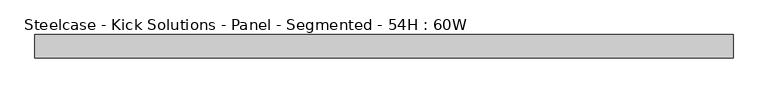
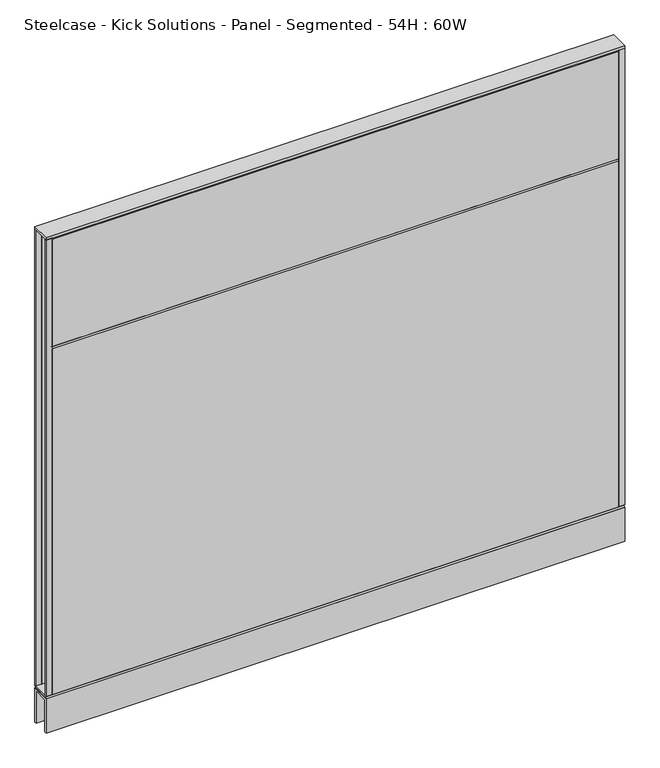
"""IFC4 building model written with IfcOpenShell, lengths in millimetres: furniture geometry, Steelcase - Kick Solutions - Panel - Segmented - 54H : 60W."""

from ifc_helpers import new_model, si_unit, frame, origin, place, context, project, spatial, polyline, outline, extrude, source, transform, mapped, element, save


def steelcase_kick_solutions_panel_segmented_54h_60w_f9cf9e86(model_context):
    return source(origin(), model_context, "Body", "SweptSolid", [
        extrude(outline(polyline([(1.5e-06, 101.600003), (-3.175, 101.600003), (-3.175, 1371.6), (1.5e-06, 1368.5188448), (1.5e-06, 101.600003)])), frame((15.8749996, 0.0, 0.0), z_axis=(1.0, 0.0, 0.0), x_axis=(0.0, 1.0, 0.0)), (0.0, 0.0, 1.0), 1492.2500008),
        extrude(outline(polyline([(-50.8000015, 1069.8811552), (-50.8000015, 1368.5188448), (-47.625, 1371.6), (-47.625, 1066.8), (-50.8000015, 1069.8811552)])), frame((15.8749996, 0.0, 0.0), z_axis=(1.0, 0.0, 0.0), x_axis=(0.0, 1.0, 0.0)), (0.0, 0.0, 1.0), 1492.2500008),
        extrude(outline(polyline([(-50.8000015, 101.600003), (-50.8000015, 1063.7188448), (-47.625, 1066.8), (-47.625, 101.600003), (-50.8000015, 101.600003)])), frame((15.8749996, 0.0, 0.0), z_axis=(1.0, 0.0, 0.0), x_axis=(0.0, 1.0, 0.0)), (0.0, 0.0, 1.0), 1492.2500008),
        extrude(outline(polyline([(1524.0, -3.1750015), (1508.1250004, -3.1750015), (1508.1250004, 0.0), (1524.0, 0.0), (1524.0, -3.1750015)])), frame((0.0, 0.0, 101.7169049), z_axis=(0.0, 0.0, 1.0), x_axis=(1.0, 0.0, 0.0)), (0.0, 0.0, 1.0), 1269.999997),
        extrude(outline(polyline([(15.8749996, -50.8000015), (0.0, -50.8000015), (0.0, -47.625), (15.8749996, -47.625), (15.8749996, -50.8000015)])), frame((0.0, 0.0, 101.7169049), z_axis=(0.0, 0.0, 1.0), x_axis=(1.0, 0.0, 0.0)), (0.0, 0.0, 1.0), 1269.999997),
        extrude(outline(polyline([(-50.7995075, 101.7169049), (-0.000494, 101.7169049), (-3.0583512, 98.5421458), (-47.7416503, 98.5421458), (-50.7995075, 101.7169049)])), frame((0.0, 0.0, 0.0), z_axis=(1.0, 0.0, 0.0), x_axis=(0.0, 1.0, 0.0)), (0.0, 0.0, 1.0), 1524.0),
        extrude(outline(polyline([(1524.0, 0.0), (1524.0, -50.8000015), (0.0, -50.8000015), (0.0, 0.0), (1524.0, 0.0)])), frame((0.0, 0.0, 1371.7169018), z_axis=(0.0, 0.0, 1.0), x_axis=(1.0, 0.0, 0.0)), (0.0, 0.0, 1.0), 6.35),
        extrude(outline(polyline([(15.8749996, -3.1750015), (0.0, -3.1750015), (0.0, 0.0), (15.8749996, 0.0), (15.8749996, -3.1750015)])), frame((0.0, 0.0, 101.7169049), z_axis=(0.0, 0.0, 1.0), x_axis=(1.0, 0.0, 0.0)), (0.0, 0.0, 1.0), 1269.999997),
        extrude(outline(polyline([(1524.0, -50.8000015), (1508.1250004, -50.8000015), (1508.1250004, -47.625), (1524.0, -47.625), (1524.0, -50.8000015)])), frame((0.0, 0.0, 101.7169049), z_axis=(0.0, 0.0, 1.0), x_axis=(1.0, 0.0, 0.0)), (0.0, 0.0, 1.0), 1269.999997),
        extrude(outline(polyline([(-50.8000015, 95.3668927), (-47.6247484, 98.5421458), (-3.1752531, 98.5421458), (0.0, 95.3668927), (-50.8000015, 95.3668927)])), frame((0.0, 0.0, 0.0), z_axis=(1.0, 0.0, 0.0), x_axis=(0.0, 1.0, 0.0)), (0.0, 0.0, 1.0), 1524.0),
        extrude(outline(polyline([(0.0, 0.0), (-5.08, 0.0), (-5.08, 90.2869018), (-45.7200015, 90.2869018), (-45.7200015, 0.0), (-50.8000015, 0.0), (-50.8000015, 95.3669018), (0.0, 95.3669018), (0.0, 0.0)])), frame((0.0, 0.0, 0.0), z_axis=(1.0, 0.0, 0.0), x_axis=(0.0, 1.0, 0.0)), (0.0, 0.0, 1.0), 1524.0),
    ])


if __name__ == "__main__":
    model = new_model("IFC4")
    model_context = context("Model", 3, world=origin())
    ifc_project = project(units=[si_unit("LENGTHUNIT", "METRE", prefix="MILLI")], contexts=[model_context])
    site = spatial("IfcSite", under=ifc_project)
    building = spatial("IfcBuilding", under=site)
    placement = place(None, origin())
    steelcase_kick_solutions_panel_segmented_54h_60w_shape = steelcase_kick_solutions_panel_segmented_54h_60w_f9cf9e86(model_context)
    element("IfcFurniture", 1, ObjectType="Steelcase - Kick Solutions - Panel - Segmented - 54H : 60W", at=placement, inside=building, context=model_context, shape_type="MappedRepresentation", body=[
        mapped(steelcase_kick_solutions_panel_segmented_54h_60w_shape, transform((0.0, 0.0, 0.0), x_axis=(1.0, 0.0, 0.0), y_axis=(0.0, 1.0, 0.0), z_axis=(0.0, 0.0, 1.0))),
    ])
    save(model, "model.ifc")
